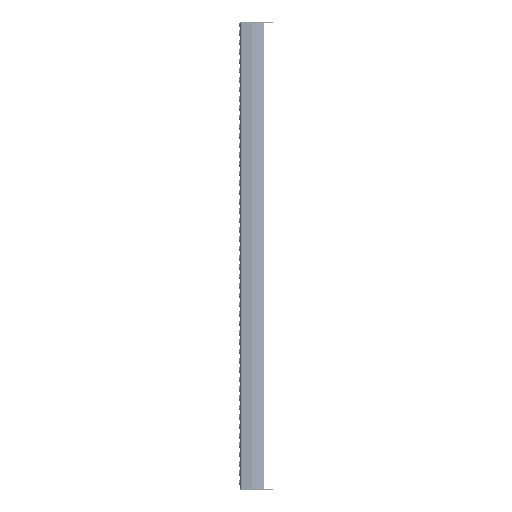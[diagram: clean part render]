
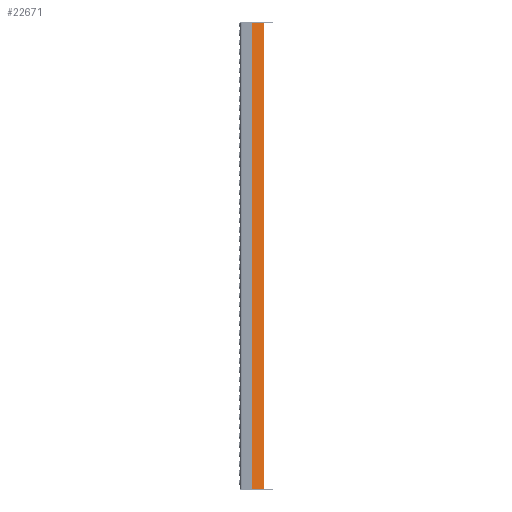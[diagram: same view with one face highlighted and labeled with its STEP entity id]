
A CAD part, left-side view. The second image highlights one B-rep face of the part: STEP entity #22671.
In plain terms, the highlighted planar face has unit normal (-0.94, -0.342, 0).
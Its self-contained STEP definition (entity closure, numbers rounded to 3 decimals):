
#2374=FACE_OUTER_BOUND('',#3931,.T.);
#3931=EDGE_LOOP('',(#17796,#17797,#17798,#17799));
#5388=LINE('',#38788,#7930);
#5407=LINE('',#38835,#7949);
#5409=LINE('',#38841,#7951);
#5413=LINE('',#38848,#7955);
#7930=VECTOR('',#28403,10.);
#7949=VECTOR('',#28446,10.);
#7951=VECTOR('',#28452,10.);
#7955=VECTOR('',#28460,10.);
#10606=VERTEX_POINT('',#38785);
#10607=VERTEX_POINT('',#38787);
#10623=VERTEX_POINT('',#38834);
#10625=VERTEX_POINT('',#38840);
#13171=EDGE_CURVE('',#10607,#10606,#5388,.T.);
#13195=EDGE_CURVE('',#10606,#10623,#5407,.T.);
#13198=EDGE_CURVE('',#10625,#10607,#5409,.T.);
#13202=EDGE_CURVE('',#10623,#10625,#5413,.T.);
#17796=ORIENTED_EDGE('',*,*,#13195,.T.);
#17797=ORIENTED_EDGE('',*,*,#13202,.T.);
#17798=ORIENTED_EDGE('',*,*,#13198,.T.);
#17799=ORIENTED_EDGE('',*,*,#13171,.T.);
#21336=PLANE('',#24558);
#22671=ADVANCED_FACE('',(#2374),#21336,.T.);
#24558=AXIS2_PLACEMENT_3D('',#38847,#28458,#28459);
#28403=DIRECTION('',(-0.342,0.94,0.));
#28446=DIRECTION('',(0.,0.,-1.));
#28452=DIRECTION('',(0.,0.,1.));
#28458=DIRECTION('center_axis',(-0.94,-0.342,0.));
#28459=DIRECTION('ref_axis',(0.,0.,1.));
#28460=DIRECTION('',(0.342,-0.94,0.));
#38785=CARTESIAN_POINT('',(0.196,-25.539,994.));
#38787=CARTESIAN_POINT('',(9.099,-50.,994.));
#38788=CARTESIAN_POINT('',(0.,-25.,994.));
#38834=CARTESIAN_POINT('',(0.196,-25.539,0.));
#38835=CARTESIAN_POINT('',(0.196,-25.539,0.));
#38840=CARTESIAN_POINT('',(9.099,-50.,0.));
#38841=CARTESIAN_POINT('',(9.099,-50.,0.));
#38847=CARTESIAN_POINT('Origin',(9.099,-50.,0.));
#38848=CARTESIAN_POINT('',(0.,-25.,0.));
